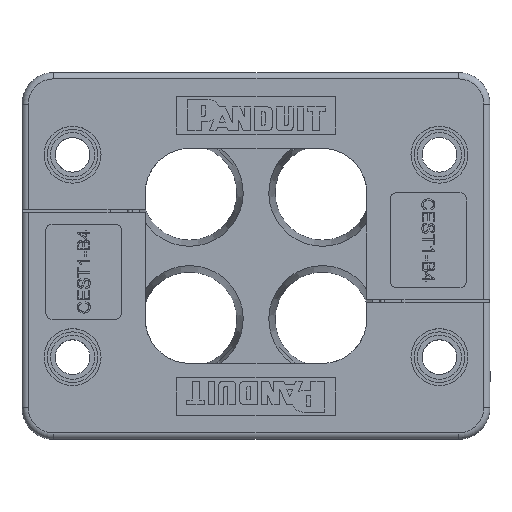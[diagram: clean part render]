
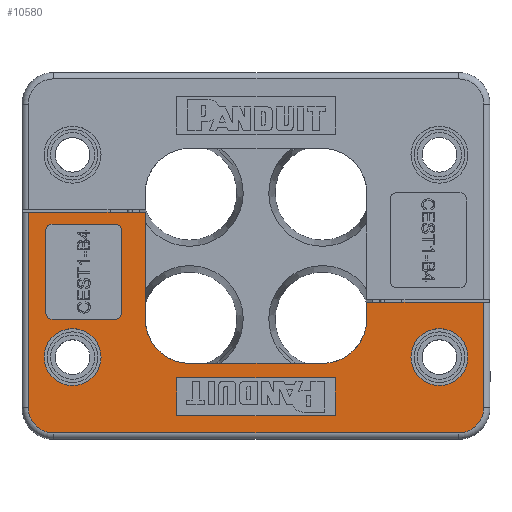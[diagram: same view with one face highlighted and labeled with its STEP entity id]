
A CAD part, top view. The second image highlights one B-rep face of the part: STEP entity #10580.
In plain terms, the highlighted planar face has unit normal (0, 0, 1) as drawn and (0, 0, -1) by its records, which use the part's own axes.
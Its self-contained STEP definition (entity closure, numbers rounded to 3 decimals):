
#328=CIRCLE('',#11351,4.);
#329=CIRCLE('',#11352,4.);
#330=CIRCLE('',#11353,7.);
#331=CIRCLE('',#11354,7.);
#332=CIRCLE('',#11355,4.5);
#333=CIRCLE('',#11356,4.5);
#334=CIRCLE('',#11357,1.);
#335=CIRCLE('',#11358,1.);
#336=CIRCLE('',#11359,1.);
#337=CIRCLE('',#11360,1.);
#424=FACE_BOUND('',#1642,.T.);
#425=FACE_BOUND('',#1643,.T.);
#426=FACE_BOUND('',#1644,.T.);
#427=FACE_BOUND('',#1645,.T.);
#1026=FACE_OUTER_BOUND('',#1641,.T.);
#1641=EDGE_LOOP('',(#8566,#8567,#8568,#8569,#8570,#8571,#8572,#8573,#8574,
#8575,#8576,#8577));
#1642=EDGE_LOOP('',(#8578));
#1643=EDGE_LOOP('',(#8579));
#1644=EDGE_LOOP('',(#8580,#8581,#8582,#8583,#8584,#8585,#8586,#8587));
#1645=EDGE_LOOP('',(#8588,#8589,#8590,#8591));
#2565=LINE('',#16725,#3704);
#2567=LINE('',#16729,#3706);
#2573=LINE('',#16741,#3712);
#2582=LINE('',#16761,#3721);
#2583=LINE('',#16765,#3722);
#2584=LINE('',#16769,#3723);
#2585=LINE('',#16772,#3724);
#2586=LINE('',#16776,#3725);
#2587=LINE('',#16784,#3726);
#2588=LINE('',#16788,#3727);
#2589=LINE('',#16792,#3728);
#2590=LINE('',#16796,#3729);
#2591=LINE('',#16800,#3730);
#2592=LINE('',#16802,#3731);
#2593=LINE('',#16804,#3732);
#2594=LINE('',#16805,#3733);
#3704=VECTOR('',#13172,10.);
#3706=VECTOR('',#13176,10.);
#3712=VECTOR('',#13184,10.);
#3721=VECTOR('',#13199,10.);
#3722=VECTOR('',#13204,10.);
#3723=VECTOR('',#13207,10.);
#3724=VECTOR('',#13210,10.);
#3725=VECTOR('',#13213,10.);
#3726=VECTOR('',#13220,10.);
#3727=VECTOR('',#13223,10.);
#3728=VECTOR('',#13226,10.);
#3729=VECTOR('',#13229,10.);
#3730=VECTOR('',#13232,10.);
#3731=VECTOR('',#13233,10.);
#3732=VECTOR('',#13234,10.);
#3733=VECTOR('',#13235,10.);
#4819=VERTEX_POINT('',#16722);
#4820=VERTEX_POINT('',#16724);
#4821=VERTEX_POINT('',#16728);
#4825=VERTEX_POINT('',#16738);
#4826=VERTEX_POINT('',#16740);
#4834=VERTEX_POINT('',#16760);
#4835=VERTEX_POINT('',#16764);
#4836=VERTEX_POINT('',#16766);
#4837=VERTEX_POINT('',#16768);
#4838=VERTEX_POINT('',#16771);
#4839=VERTEX_POINT('',#16773);
#4840=VERTEX_POINT('',#16775);
#4841=VERTEX_POINT('',#16778);
#4842=VERTEX_POINT('',#16780);
#4843=VERTEX_POINT('',#16782);
#4844=VERTEX_POINT('',#16783);
#4845=VERTEX_POINT('',#16785);
#4846=VERTEX_POINT('',#16787);
#4847=VERTEX_POINT('',#16789);
#4848=VERTEX_POINT('',#16791);
#4849=VERTEX_POINT('',#16793);
#4850=VERTEX_POINT('',#16795);
#4851=VERTEX_POINT('',#16798);
#4852=VERTEX_POINT('',#16799);
#4853=VERTEX_POINT('',#16801);
#4854=VERTEX_POINT('',#16803);
#6142=EDGE_CURVE('',#4820,#4819,#2565,.T.);
#6144=EDGE_CURVE('',#4821,#4820,#2567,.T.);
#6150=EDGE_CURVE('',#4826,#4825,#2573,.T.);
#6160=EDGE_CURVE('',#4826,#4834,#2582,.T.);
#6162=EDGE_CURVE('',#4835,#4819,#2583,.T.);
#6163=EDGE_CURVE('',#4836,#4835,#328,.T.);
#6164=EDGE_CURVE('',#4837,#4836,#2584,.T.);
#6165=EDGE_CURVE('',#4834,#4837,#329,.T.);
#6166=EDGE_CURVE('',#4825,#4838,#2585,.T.);
#6167=EDGE_CURVE('',#4839,#4838,#330,.T.);
#6168=EDGE_CURVE('',#4839,#4840,#2586,.T.);
#6169=EDGE_CURVE('',#4821,#4840,#331,.T.);
#6170=EDGE_CURVE('',#4841,#4841,#332,.T.);
#6171=EDGE_CURVE('',#4842,#4842,#333,.T.);
#6172=EDGE_CURVE('',#4843,#4844,#2587,.T.);
#6173=EDGE_CURVE('',#4845,#4844,#334,.T.);
#6174=EDGE_CURVE('',#4845,#4846,#2588,.T.);
#6175=EDGE_CURVE('',#4847,#4846,#335,.T.);
#6176=EDGE_CURVE('',#4847,#4848,#2589,.T.);
#6177=EDGE_CURVE('',#4849,#4848,#336,.T.);
#6178=EDGE_CURVE('',#4849,#4850,#2590,.T.);
#6179=EDGE_CURVE('',#4843,#4850,#337,.T.);
#6180=EDGE_CURVE('',#4851,#4852,#2591,.T.);
#6181=EDGE_CURVE('',#4852,#4853,#2592,.T.);
#6182=EDGE_CURVE('',#4853,#4854,#2593,.T.);
#6183=EDGE_CURVE('',#4854,#4851,#2594,.T.);
#8566=ORIENTED_EDGE('',*,*,#6142,.T.);
#8567=ORIENTED_EDGE('',*,*,#6162,.F.);
#8568=ORIENTED_EDGE('',*,*,#6163,.F.);
#8569=ORIENTED_EDGE('',*,*,#6164,.F.);
#8570=ORIENTED_EDGE('',*,*,#6165,.F.);
#8571=ORIENTED_EDGE('',*,*,#6160,.F.);
#8572=ORIENTED_EDGE('',*,*,#6150,.T.);
#8573=ORIENTED_EDGE('',*,*,#6166,.T.);
#8574=ORIENTED_EDGE('',*,*,#6167,.F.);
#8575=ORIENTED_EDGE('',*,*,#6168,.T.);
#8576=ORIENTED_EDGE('',*,*,#6169,.F.);
#8577=ORIENTED_EDGE('',*,*,#6144,.T.);
#8578=ORIENTED_EDGE('',*,*,#6170,.T.);
#8579=ORIENTED_EDGE('',*,*,#6171,.T.);
#8580=ORIENTED_EDGE('',*,*,#6172,.T.);
#8581=ORIENTED_EDGE('',*,*,#6173,.F.);
#8582=ORIENTED_EDGE('',*,*,#6174,.T.);
#8583=ORIENTED_EDGE('',*,*,#6175,.F.);
#8584=ORIENTED_EDGE('',*,*,#6176,.T.);
#8585=ORIENTED_EDGE('',*,*,#6177,.F.);
#8586=ORIENTED_EDGE('',*,*,#6178,.T.);
#8587=ORIENTED_EDGE('',*,*,#6179,.F.);
#8588=ORIENTED_EDGE('',*,*,#6180,.T.);
#8589=ORIENTED_EDGE('',*,*,#6181,.T.);
#8590=ORIENTED_EDGE('',*,*,#6182,.T.);
#8591=ORIENTED_EDGE('',*,*,#6183,.T.);
#10069=PLANE('',#11350);
#10580=ADVANCED_FACE('',(#1026,#424,#425,#426,#427),#10069,.F.);
#11350=AXIS2_PLACEMENT_3D('',#16763,#13202,#13203);
#11351=AXIS2_PLACEMENT_3D('',#16767,#13205,#13206);
#11352=AXIS2_PLACEMENT_3D('',#16770,#13208,#13209);
#11353=AXIS2_PLACEMENT_3D('',#16774,#13211,#13212);
#11354=AXIS2_PLACEMENT_3D('',#16777,#13214,#13215);
#11355=AXIS2_PLACEMENT_3D('',#16779,#13216,#13217);
#11356=AXIS2_PLACEMENT_3D('',#16781,#13218,#13219);
#11357=AXIS2_PLACEMENT_3D('',#16786,#13221,#13222);
#11358=AXIS2_PLACEMENT_3D('',#16790,#13224,#13225);
#11359=AXIS2_PLACEMENT_3D('',#16794,#13227,#13228);
#11360=AXIS2_PLACEMENT_3D('',#16797,#13230,#13231);
#13172=DIRECTION('',(1.,0.,0.));
#13176=DIRECTION('',(0.,1.,0.));
#13184=DIRECTION('',(1.,0.,0.));
#13199=DIRECTION('',(0.,-1.,0.));
#13202=DIRECTION('center_axis',(0.,0.,1.));
#13203=DIRECTION('ref_axis',(1.,0.,0.));
#13204=DIRECTION('',(0.,1.,0.));
#13205=DIRECTION('center_axis',(0.,0.,1.));
#13206=DIRECTION('ref_axis',(0.707,-0.707,0.));
#13207=DIRECTION('',(1.,0.,0.));
#13208=DIRECTION('center_axis',(0.,0.,1.));
#13209=DIRECTION('ref_axis',(-0.707,-0.707,0.));
#13210=DIRECTION('',(0.,-1.,0.));
#13211=DIRECTION('center_axis',(0.,0.,-1.));
#13212=DIRECTION('ref_axis',(-0.707,-0.707,0.));
#13213=DIRECTION('',(1.,0.,0.));
#13214=DIRECTION('center_axis',(0.,0.,-1.));
#13215=DIRECTION('ref_axis',(0.707,-0.707,0.));
#13216=DIRECTION('center_axis',(0.,0.,1.));
#13217=DIRECTION('ref_axis',(1.,0.,0.));
#13218=DIRECTION('center_axis',(0.,0.,1.));
#13219=DIRECTION('ref_axis',(1.,0.,0.));
#13220=DIRECTION('',(0.,1.,0.));
#13221=DIRECTION('center_axis',(0.,0.,-1.));
#13222=DIRECTION('ref_axis',(0.707,0.707,0.));
#13223=DIRECTION('',(-1.,0.,0.));
#13224=DIRECTION('center_axis',(0.,0.,-1.));
#13225=DIRECTION('ref_axis',(-0.707,0.707,0.));
#13226=DIRECTION('',(0.,-1.,0.));
#13227=DIRECTION('center_axis',(0.,0.,-1.));
#13228=DIRECTION('ref_axis',(-0.707,-0.707,0.));
#13229=DIRECTION('',(1.,0.,0.));
#13230=DIRECTION('center_axis',(0.,0.,-1.));
#13231=DIRECTION('ref_axis',(0.707,-0.707,0.));
#13232=DIRECTION('',(0.,1.,0.));
#13233=DIRECTION('',(-1.,0.,0.));
#13234=DIRECTION('',(0.,-1.,0.));
#13235=DIRECTION('',(1.,0.,0.));
#16722=CARTESIAN_POINT('',(36.,6.9,-15.));
#16724=CARTESIAN_POINT('',(17.5,6.9,-15.));
#16725=CARTESIAN_POINT('',(13.789,6.9,-15.));
#16728=CARTESIAN_POINT('',(17.5,-10.,-15.));
#16729=CARTESIAN_POINT('',(17.5,7.,-15.));
#16738=CARTESIAN_POINT('',(-17.5,-7.3,-15.));
#16740=CARTESIAN_POINT('',(-36.,-7.3,-15.));
#16741=CARTESIAN_POINT('',(-13.789,-7.3,-15.));
#16760=CARTESIAN_POINT('',(-36.,-24.,-15.));
#16761=CARTESIAN_POINT('',(-36.,13.75,-15.));
#16763=CARTESIAN_POINT('Origin',(0.,0.,
-15.));
#16764=CARTESIAN_POINT('',(36.,-24.,-15.));
#16765=CARTESIAN_POINT('',(36.,-13.75,-15.));
#16766=CARTESIAN_POINT('',(32.,-28.,-15.));
#16767=CARTESIAN_POINT('Origin',(32.,-24.,-15.));
#16768=CARTESIAN_POINT('',(-32.,-28.,-15.));
#16769=CARTESIAN_POINT('',(-18.5,-28.,-15.));
#16770=CARTESIAN_POINT('Origin',(-32.,-24.,-15.));
#16771=CARTESIAN_POINT('',(-17.5,-10.,-15.));
#16772=CARTESIAN_POINT('',(-17.5,-17.,-15.));
#16773=CARTESIAN_POINT('',(-10.5,-17.,-15.));
#16774=CARTESIAN_POINT('Origin',(-10.5,-10.,-15.));
#16775=CARTESIAN_POINT('',(10.5,-17.,-15.));
#16776=CARTESIAN_POINT('',(9.438,-17.,-15.));
#16777=CARTESIAN_POINT('Origin',(10.5,-10.,-15.));
#16778=CARTESIAN_POINT('',(-33.5,-16.,-15.));
#16779=CARTESIAN_POINT('Origin',(-29.,-16.,-15.));
#16780=CARTESIAN_POINT('',(24.5,-16.,-15.));
#16781=CARTESIAN_POINT('Origin',(29.,-16.,-15.));
#16782=CARTESIAN_POINT('',(33.25,-9.,-15.));
#16783=CARTESIAN_POINT('',(33.25,4.,-15.));
#16784=CARTESIAN_POINT('',(33.25,2.5,-15.));
#16785=CARTESIAN_POINT('',(32.25,5.,-15.));
#16786=CARTESIAN_POINT('Origin',(32.25,4.,-15.));
#16787=CARTESIAN_POINT('',(22.25,5.,-15.));
#16788=CARTESIAN_POINT('',(10.625,5.,-15.));
#16789=CARTESIAN_POINT('',(21.25,4.,-15.));
#16790=CARTESIAN_POINT('Origin',(22.25,4.,-15.));
#16791=CARTESIAN_POINT('',(21.25,-9.,-15.));
#16792=CARTESIAN_POINT('',(21.25,-5.,-15.));
#16793=CARTESIAN_POINT('',(22.25,-10.,-15.));
#16794=CARTESIAN_POINT('Origin',(22.25,-9.,-15.));
#16795=CARTESIAN_POINT('',(32.25,-10.,-15.));
#16796=CARTESIAN_POINT('',(16.625,-10.,-15.));
#16797=CARTESIAN_POINT('Origin',(32.25,-9.,-15.));
#16798=CARTESIAN_POINT('',(12.5,-25.25,-15.));
#16799=CARTESIAN_POINT('',(12.5,-19.25,-15.));
#16800=CARTESIAN_POINT('',(12.5,-9.625,-15.));
#16801=CARTESIAN_POINT('',(-12.5,-19.25,-15.));
#16802=CARTESIAN_POINT('',(-6.25,-19.25,-15.));
#16803=CARTESIAN_POINT('',(-12.5,-25.25,-15.));
#16804=CARTESIAN_POINT('',(-12.5,-12.625,-15.));
#16805=CARTESIAN_POINT('',(6.25,-25.25,-15.));
